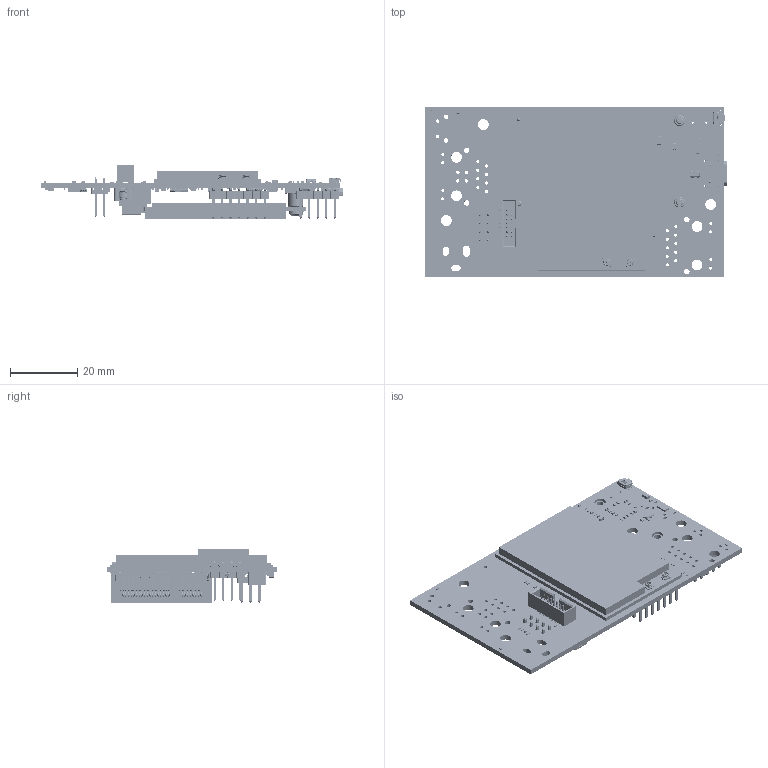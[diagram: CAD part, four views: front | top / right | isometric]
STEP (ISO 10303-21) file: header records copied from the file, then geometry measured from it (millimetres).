
FILE_DESCRIPTION(('FreeCAD Model'),'2;1');
FILE_NAME('D:/Documents/testt.step','2016-12-14T16:38:09',('Author'),('' ),'Open CASCADE STEP processor 6.8','FreeCAD','Unknown');
FILE_SCHEMA(('AUTOMOTIVE_DESIGN_CC2 { 1 2 10303 214 -1 1 5 4 }'));
Length unit declared in the file: millimetre
Products named in the file (147): ASSEMBLY; Board; User_Library-cap_0603-005; User_Library-cap_0418; User_Library-cap_0805-002; User_Library-CAY10_RESCAXS80P160X320X60-8N.STEP018; User_Library-CAY10_RESCAXS80P160X320X60-8N.STEP019; User_Library-CAY10_RESCAXS80P160X320X60-8N.STEP; User_Library-CAY10_RESCAXS80P160X320X60-8N.STEP001; User_Library-CAY10_RESCAXS80P160X320X60-8N.STEP002; User_Library-CAY10_RESCAXS80P160X320X60-8N.STEP023; User_Library-CAY10_RESCAXS80P160X320X60-8N.STEP024; User_Library-CAY10_RESCAXS80P160X320X60-8N.STEP025; User_Library-CAY10_RESCAXS80P160X320X60-8N.STEP026; User_Library-CAY10_RESCAXS80P160X320X60-8N.STEP027; User_Library-nona_SMD075F; Cover; Stem; Contact_plate; Frame; User_Library-U_FL-R-SMT-008; User_Library-U_FL-R-SMT-009; User_Library-U_FL-R-SMT-010; User_Library-U_FL-R-SMT-011; User_Library-TSSOP-8_3.1x3.1_pin_TSSOP_tssop_008; User_Library-U_FL-R-SMT-013; User_Library-U_FL-R-SMT-012; User_Library-SMD_RESISTOR-0603; User_Library-SMD_RESISTOR-0604; User_Library-SMD_RESISTOR-0605; User_Library-SMD_RESISTOR-0606; User_Library-res0402-040; User_Library-U_FL-R-SMT-014; Extruded; Extruded001; Cylinder001; Cylinder002; Extruded002; User_Library-TSSOP16; Extruded003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
Assembly tree (387 placements, depth 2):
  ASSEMBLY
    Board
    User_Library-cap_0603-005  x7
    User_Library-cap_0418  x49
    User_Library-cap_0805-002  x5
    User_Library-CAY10_RESCAXS80P160X320X60-8N.STEP018  x5
    User_Library-CAY10_RESCAXS80P160X320X60-8N.STEP019  x5
    User_Library-CAY10_RESCAXS80P160X320X60-8N.STEP  x5
    User_Library-CAY10_RESCAXS80P160X320X60-8N.STEP001  x5
    User_Library-CAY10_RESCAXS80P160X320X60-8N.STEP002  x5
    User_Library-CAY10_RESCAXS80P160X320X60-8N.STEP023  x5
    User_Library-CAY10_RESCAXS80P160X320X60-8N.STEP024  x5
    User_Library-CAY10_RESCAXS80P160X320X60-8N.STEP025  x5
    User_Library-CAY10_RESCAXS80P160X320X60-8N.STEP026  x5
    User_Library-CAY10_RESCAXS80P160X320X60-8N.STEP027  x5
    User_Library-nona_SMD075F
    Cover
    Stem
    Contact_plate
    Frame
    User_Library-U_FL-R-SMT-008  x2
    User_Library-U_FL-R-SMT-009  x2
    User_Library-U_FL-R-SMT-010  x2
    User_Library-U_FL-R-SMT-011  x2
    User_Library-TSSOP-8_3.1x3.1_pin_TSSOP_tssop_008  x8
    User_Library-U_FL-R-SMT-013  x2
    User_Library-U_FL-R-SMT-012  x2
    User_Library-SMD_RESISTOR-0603
    User_Library-SMD_RESISTOR-0604
    User_Library-SMD_RESISTOR-0605
    User_Library-SMD_RESISTOR-0606
    User_Library-res0402-040  x44
    User_Library-U_FL-R-SMT-014  x2
    Extruded
    Extruded001
    Cylinder001  x2
    Cylinder002
    Extruded002
    User_Library-TSSOP16
    Extruded003
    Extruded004
    User_Library-TSOP6
    User_Library-TSOT-23-8_Part_TSOT-23-8_____________
    User_Library-TSOT-23-8_Fuss_TSOT-23-8_____________011  x12
    User_Library-sot23-1
    User_Library-sot363
    User_Library-QFN56_(8x8)
    User_Library-TSSOP-8_3.1x3.1_body_TSSOP_TSSOP_3.1x3.1_1
    User_Library-sot143
    User_Library-SG310
    User_Library-led_0402_yellow
    User_Library-led_0402_red  x2
    conminipcie+nuts-0.2mm034
    conminipcie+nuts-0.2mm035
    conminipcie+nuts-0.2mm036
    conminipcie+nuts-0.2mm037
    conminipcie+nuts-0.2mm038
    conminipcie+nuts-0.2mm039
    conminipcie+nuts-0.2mm040
    conminipcie+nuts-0.2mm041
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Bounding box: 89.9 x 50.8 x 16 mm (x, y, z)
Volume: 19241.8 mm3; surface area: 32599.1 mm2
Topology: 387 solids, 387 shells, 16175 faces, 42464 edges, 26394 vertices
Faces by surface type: plane 11287, cylinder 3885, sphere 555, bspline 266, torus 122, cone 42, extrusion 14, revolution 4
Full cylindrical faces by diameter (mm): 0.05 x58, 0.125 x2, 0.2 x1, 0.4 x2, 0.6 x7, 0.8 x2, 0.9 x1, 0.925 x26, 1.025 x14, 1.1 x1, 1.325 x2, 1.4 x1, 1.6 x1, 1.625 x4, 1.75 x1, 2 x6, 3.2 x6, 3.225 x4, 3.425 x2, 4 x2, 4.5 x2
Entity records: 893133 total; most frequent: CARTESIAN_POINT 353397, DIRECTION 90738, VECTOR 61100, LINE 61086, ORIENTED_EDGE 52782, PCURVE 52782, DEFINITIONAL_REPRESENTATION 52782, EDGE_CURVE 26391
